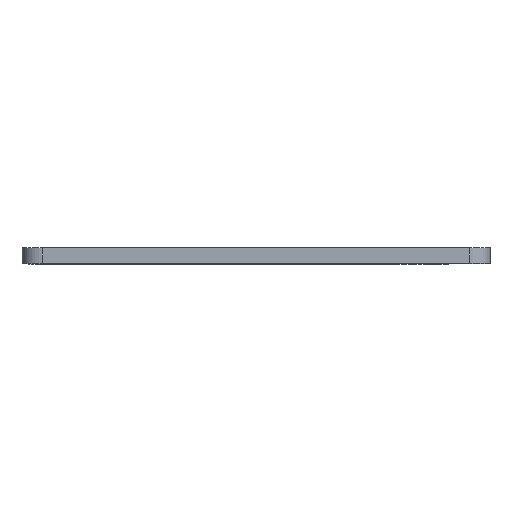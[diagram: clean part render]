
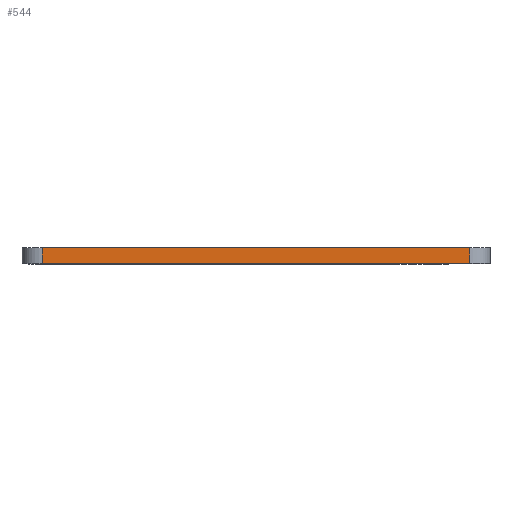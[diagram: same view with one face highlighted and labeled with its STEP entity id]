
A CAD part, top view. The second image highlights one B-rep face of the part: STEP entity #544.
In plain terms, the highlighted planar face has unit normal (0, 0, 1).
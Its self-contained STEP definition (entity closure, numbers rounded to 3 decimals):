
#20 = CARTESIAN_POINT ( 'NONE',  ( 146.372, 2.5, 17.194 ) ) ;
#36 = VERTEX_POINT ( 'NONE', #531 ) ;
#65 = ORIENTED_EDGE ( 'NONE', *, *, #138, .F. ) ;
#71 = CARTESIAN_POINT ( 'NONE',  ( 146.372, 0., 17.194 ) ) ;
#74 = VECTOR ( 'NONE', #252, 1000. ) ;
#77 = DIRECTION ( 'NONE',  ( 0., 0., 1. ) ) ;
#103 = VECTOR ( 'NONE', #400, 1000. ) ;
#113 = EDGE_CURVE ( 'NONE', #569, #36, #287, .T. ) ;
#138 = EDGE_CURVE ( 'NONE', #36, #592, #219, .T. ) ;
#142 = CARTESIAN_POINT ( 'NONE',  ( 215.759, 2.5, 17.194 ) ) ;
#191 = ORIENTED_EDGE ( 'NONE', *, *, #359, .T. ) ;
#219 = LINE ( 'NONE', #20, #548 ) ;
#252 = DIRECTION ( 'NONE',  ( 0., 1., 0. ) ) ;
#287 = LINE ( 'NONE', #644, #74 ) ;
#301 = PLANE ( 'NONE',  #540 ) ;
#318 = VECTOR ( 'NONE', #568, 1000. ) ;
#323 = ORIENTED_EDGE ( 'NONE', *, *, #415, .T. ) ;
#331 = EDGE_LOOP ( 'NONE', ( #65, #477, #191, #323 ) ) ;
#343 = CARTESIAN_POINT ( 'NONE',  ( 146.372, 0., 17.194 ) ) ;
#359 = EDGE_CURVE ( 'NONE', #569, #615, #481, .T. ) ;
#382 = DIRECTION ( 'NONE',  ( 1., 0., 0. ) ) ;
#400 = DIRECTION ( 'NONE',  ( 1., 0., 0. ) ) ;
#415 = EDGE_CURVE ( 'NONE', #615, #592, #458, .T. ) ;
#458 = LINE ( 'NONE', #515, #318 ) ;
#477 = ORIENTED_EDGE ( 'NONE', *, *, #113, .F. ) ;
#481 = LINE ( 'NONE', #343, #103 ) ;
#515 = CARTESIAN_POINT ( 'NONE',  ( 215.759, 0., 17.194 ) ) ;
#531 = CARTESIAN_POINT ( 'NONE',  ( 146.372, 2.5, 17.194 ) ) ;
#540 = AXIS2_PLACEMENT_3D ( 'NONE', #71, #77, #638 ) ;
#544 = ADVANCED_FACE ( 'NONE', ( #554 ), #301, .T. ) ;
#548 = VECTOR ( 'NONE', #382, 1000. ) ;
#554 = FACE_OUTER_BOUND ( 'NONE', #331, .T. ) ;
#568 = DIRECTION ( 'NONE',  ( 0., 1., 0. ) ) ;
#569 = VERTEX_POINT ( 'NONE', #695 ) ;
#592 = VERTEX_POINT ( 'NONE', #142 ) ;
#615 = VERTEX_POINT ( 'NONE', #687 ) ;
#638 = DIRECTION ( 'NONE',  ( 1., 0., 0. ) ) ;
#644 = CARTESIAN_POINT ( 'NONE',  ( 146.372, 0., 17.194 ) ) ;
#687 = CARTESIAN_POINT ( 'NONE',  ( 215.759, 0., 17.194 ) ) ;
#695 = CARTESIAN_POINT ( 'NONE',  ( 146.372, 0., 17.194 ) ) ;
